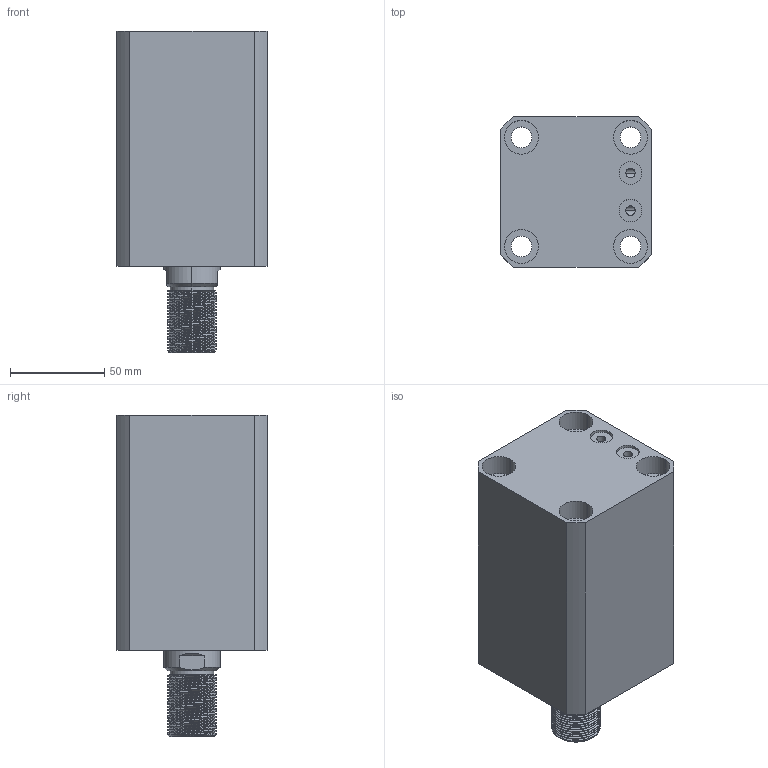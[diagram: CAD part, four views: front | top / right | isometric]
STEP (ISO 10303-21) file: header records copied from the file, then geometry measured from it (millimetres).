
FILE_DESCRIPTION (( 'STEP AP203' ), '1' );
FILE_NAME ('CHTB-SDMB50-65W.STEP', '2018-05-19T06:17:55', ( '' ), ( '' ), 'SwSTEP 2.0', 'SolidWorks 2015', '' );
FILE_SCHEMA (( 'CONFIG_CONTROL_DESIGN' ));
Length unit declared in the file: millimetre
Products named in the file (5): 掛极SDMB50-65W; CHTM-SDMA50QG; CHTB-SDMB50-65W; M6; 活塞杆SDMB50-65W
Assembly tree (5 placements, depth 2):
  CHTB-SDMB50-65W
    掛极SDMB50-65W
    活塞杆SDMB50-65W
    CHTM-SDMA50QG
    M6  x2
Bounding box: 80 x 80 x 171 mm (x, y, z)
Volume: 670004.6 mm3; surface area: 127445.5 mm2
Topology: 5 solids, 5 shells, 305 faces, 821 edges, 547 vertices
Faces by surface type: cylinder 175, plane 57, cone 29, bspline 28, torus 16
Entity records: 17763 total; most frequent: CARTESIAN_POINT 11022, ORIENTED_EDGE 1448, DIRECTION 1131, EDGE_CURVE 724, VERTEX_POINT 486, AXIS2_PLACEMENT_3D 455, EDGE_LOOP 312, FACE_OUTER_BOUND 270
